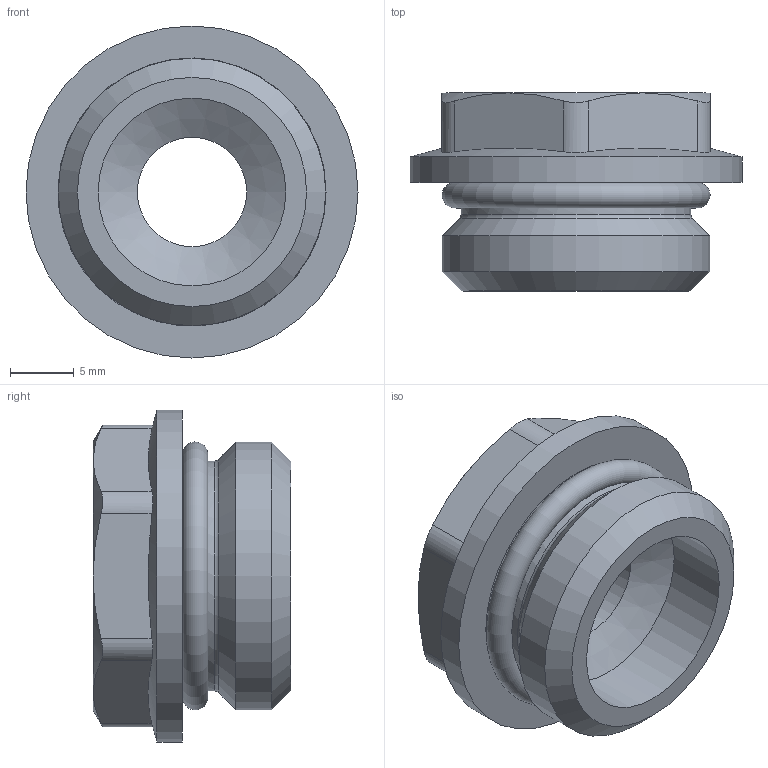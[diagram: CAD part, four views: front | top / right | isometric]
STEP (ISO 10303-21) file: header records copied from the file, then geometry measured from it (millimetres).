
FILE_DESCRIPTION(('STEP AP203'), '1');
FILE_NAME('覆.302638.013.000 捘 - VTr.585.N.0401', '', ('UNSPECIFIED'), ('UNSPECIFIED'), 'C3D Converter', 'C3D Toolkit', '');
FILE_SCHEMA(('CONFIG_CONTROL_DESIGN'));
Length unit declared in the file: millimetre
Products named in the file (1): ВР.302638.013.000 СБ
Bounding box: 26 x 15.5 x 26 mm (x, y, z)
Volume: 4106.9 mm3; surface area: 2562.8 mm2
Topology: 1 solids, 1 shells, 89 faces, 233 edges, 150 vertices
Faces by surface type: extrusion 34, plane 28, cylinder 12, cone 11, torus 4
Full cylindrical faces by diameter (mm): 8.566 x1, 10 x1, 14.7 x1, 18 x1, 20.955 x1, 26 x1
Entity records: 3471 total; most frequent: CARTESIAN_POINT 1474, ORIENTED_EDGE 436, DIRECTION 290, EDGE_CURVE 218, VERTEX_POINT 150, B_SPLINE_CURVE_WITH_KNOTS 133, VECTOR 128, EDGE_LOOP 110
